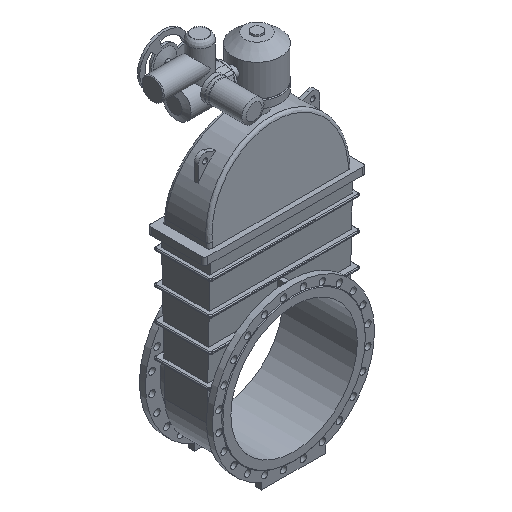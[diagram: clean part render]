
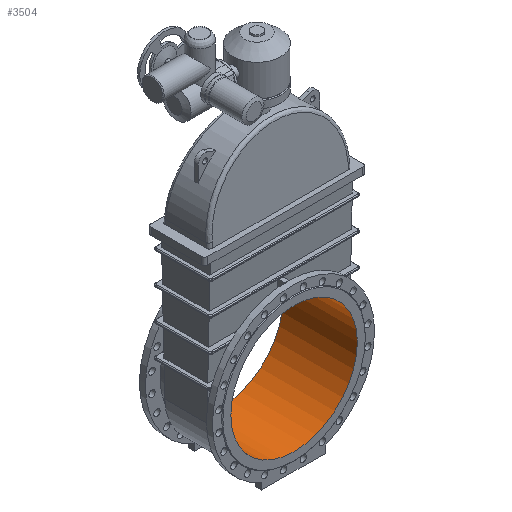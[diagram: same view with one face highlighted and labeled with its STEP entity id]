
A CAD part, isometric view. The second image highlights one B-rep face of the part: STEP entity #3504.
In plain terms, the highlighted cylindrical face has radius 400 mm (diameter 800 mm), a full revolution.
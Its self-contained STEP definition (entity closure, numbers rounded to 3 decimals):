
#3504=ADVANCED_FACE('',(#9513,#9515),#9517,.F.);
#9513=FACE_OUTER_BOUND('',#9514,.T.);
#9514=EDGE_LOOP('',(#11156));
#9515=FACE_OUTER_BOUND('',#9516,.T.);
#9516=EDGE_LOOP('',(#11157));
#9517=CYLINDRICAL_SURFACE('',#9518,400.);
#9518=AXIS2_PLACEMENT_3D('',#9519,#9520,#9521);
#9519=CARTESIAN_POINT('',(0.,235.,0.));
#9520=DIRECTION('',(0.,1.,0.));
#9521=DIRECTION('',(0.,0.,1.));
#11156=ORIENTED_EDGE('',*,*,#11975,.T.);
#11157=ORIENTED_EDGE('',*,*,#11974,.F.);
#11974=EDGE_CURVE('',#13378,#13378,#13379,.T.);
#11975=EDGE_CURVE('',#13380,#13380,#13381,.T.);
#13378=VERTEX_POINT('',#18588);
#13379=CIRCLE('',#18589,400.);
#13380=VERTEX_POINT('',#18593);
#13381=CIRCLE('',#18594,400.);
#18588=CARTESIAN_POINT('',(0.,-235.,400.));
#18589=AXIS2_PLACEMENT_3D('',#18590,#18591,#18592);
#18590=CARTESIAN_POINT('',(0.,-235.,0.));
#18591=DIRECTION('',(0.,1.,0.));
#18592=DIRECTION('',(0.,0.,1.));
#18593=CARTESIAN_POINT('',(0.,235.,400.));
#18594=AXIS2_PLACEMENT_3D('',#18595,#18596,#18597);
#18595=CARTESIAN_POINT('',(0.,235.,0.));
#18596=DIRECTION('',(0.,1.,0.));
#18597=DIRECTION('',(0.,0.,1.));
